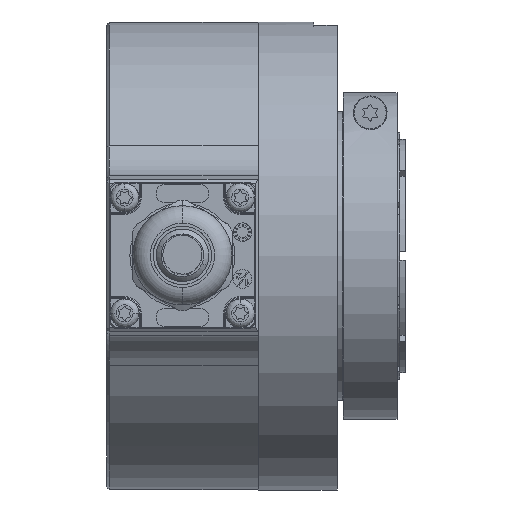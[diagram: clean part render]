
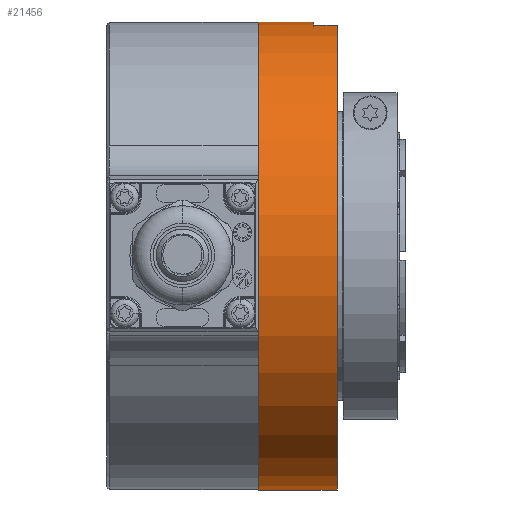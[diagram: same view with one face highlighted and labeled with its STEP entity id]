
A CAD part, top view. The second image highlights one B-rep face of the part: STEP entity #21456.
In plain terms, the highlighted cylindrical face has radius 40.075 mm (diameter 80.15 mm), a partial arc.
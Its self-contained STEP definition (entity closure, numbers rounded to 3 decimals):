
#580 = DIRECTION ( 'NONE',  ( -1., 0., 0. ) ) ;
#916 = EDGE_CURVE ( 'NONE', #16915, #8217, #17357, .T. ) ;
#947 = CIRCLE ( 'NONE', #8901, 40.075 ) ;
#1090 = VECTOR ( 'NONE', #8361, 1000. ) ;
#1130 = CARTESIAN_POINT ( 'NONE',  ( -12.775, -40.075, 0. ) ) ;
#1415 = VECTOR ( 'NONE', #1430, 1000. ) ;
#1430 = DIRECTION ( 'NONE',  ( -1., 0., 0. ) ) ;
#2587 = DIRECTION ( 'NONE',  ( 0., 1., 0. ) ) ;
#2876 = CARTESIAN_POINT ( 'NONE',  ( -12.775, 40.075, 0. ) ) ;
#3463 = DIRECTION ( 'NONE',  ( -1., 0., 0. ) ) ;
#3643 = AXIS2_PLACEMENT_3D ( 'NONE', #21364, #3463, #9022 ) ;
#3843 = CARTESIAN_POINT ( 'NONE',  ( 0., 0., 0. ) ) ;
#4127 = ORIENTED_EDGE ( 'NONE', *, *, #11056, .T. ) ;
#5220 = FACE_OUTER_BOUND ( 'NONE', #5832, .T. ) ;
#5832 = EDGE_LOOP ( 'NONE', ( #12332, #8991, #16643, #12218, #4127, #11524 ) ) ;
#5874 = VERTEX_POINT ( 'NONE', #14040 ) ;
#6376 = CARTESIAN_POINT ( 'NONE',  ( 13.5, 0., 0. ) ) ;
#6399 = EDGE_CURVE ( 'NONE', #8217, #12561, #23046, .T. ) ;
#6571 = VERTEX_POINT ( 'NONE', #16697 ) ;
#6659 = CIRCLE ( 'NONE', #21405, 40.075 ) ;
#8217 = VERTEX_POINT ( 'NONE', #22839 ) ;
#8361 = DIRECTION ( 'NONE',  ( -1., 0., 0. ) ) ;
#8714 = EDGE_CURVE ( 'NONE', #5874, #14537, #15740, .T. ) ;
#8901 = AXIS2_PLACEMENT_3D ( 'NONE', #22072, #580, #12902 ) ;
#8991 = ORIENTED_EDGE ( 'NONE', *, *, #20855, .T. ) ;
#9022 = DIRECTION ( 'NONE',  ( 0., 1., 0. ) ) ;
#10540 = CARTESIAN_POINT ( 'NONE',  ( -12.775, 39.468, 6.95 ) ) ;
#11056 = EDGE_CURVE ( 'NONE', #6571, #12561, #17326, .T. ) ;
#11524 = ORIENTED_EDGE ( 'NONE', *, *, #6399, .F. ) ;
#11580 = CARTESIAN_POINT ( 'NONE',  ( 0., 40.075, 0. ) ) ;
#12218 = ORIENTED_EDGE ( 'NONE', *, *, #20277, .T. ) ;
#12332 = ORIENTED_EDGE ( 'NONE', *, *, #916, .F. ) ;
#12561 = VERTEX_POINT ( 'NONE', #11580 ) ;
#12800 = AXIS2_PLACEMENT_3D ( 'NONE', #3843, #12943, #20325 ) ;
#12902 = DIRECTION ( 'NONE',  ( 0., 1., 0. ) ) ;
#12943 = DIRECTION ( 'NONE',  ( -1., 0., 0. ) ) ;
#14040 = CARTESIAN_POINT ( 'NONE',  ( 13.5, 39.468, 6.95 ) ) ;
#14537 = VERTEX_POINT ( 'NONE', #14563 ) ;
#14563 = CARTESIAN_POINT ( 'NONE',  ( 9.5, 39.468, 6.95 ) ) ;
#14738 = VECTOR ( 'NONE', #19116, 1000. ) ;
#15740 = LINE ( 'NONE', #10540, #1415 ) ;
#16643 = ORIENTED_EDGE ( 'NONE', *, *, #8714, .T. ) ;
#16697 = CARTESIAN_POINT ( 'NONE',  ( 9.5, 40.075, 0. ) ) ;
#16915 = VERTEX_POINT ( 'NONE', #19424 ) ;
#17326 = LINE ( 'NONE', #2876, #14738 ) ;
#17357 = LINE ( 'NONE', #1130, #1090 ) ;
#19116 = DIRECTION ( 'NONE',  ( -1., 0., 0. ) ) ;
#19424 = CARTESIAN_POINT ( 'NONE',  ( 13.5, -40.075, 0. ) ) ;
#20277 = EDGE_CURVE ( 'NONE', #14537, #6571, #947, .T. ) ;
#20325 = DIRECTION ( 'NONE',  ( 0., 1., 0. ) ) ;
#20855 = EDGE_CURVE ( 'NONE', #16915, #5874, #6659, .T. ) ;
#21364 = CARTESIAN_POINT ( 'NONE',  ( -12.775, 0., 0. ) ) ;
#21405 = AXIS2_PLACEMENT_3D ( 'NONE', #6376, #22853, #2587 ) ;
#21456 = ADVANCED_FACE ( 'NONE', ( #5220 ), #23254, .T. ) ;
#22072 = CARTESIAN_POINT ( 'NONE',  ( 9.5, 0., 0. ) ) ;
#22839 = CARTESIAN_POINT ( 'NONE',  ( 0., -40.075, 0. ) ) ;
#22853 = DIRECTION ( 'NONE',  ( -1., 0., 0. ) ) ;
#23046 = CIRCLE ( 'NONE', #12800, 40.075 ) ;
#23254 = CYLINDRICAL_SURFACE ( 'NONE', #3643, 40.075 ) ;
